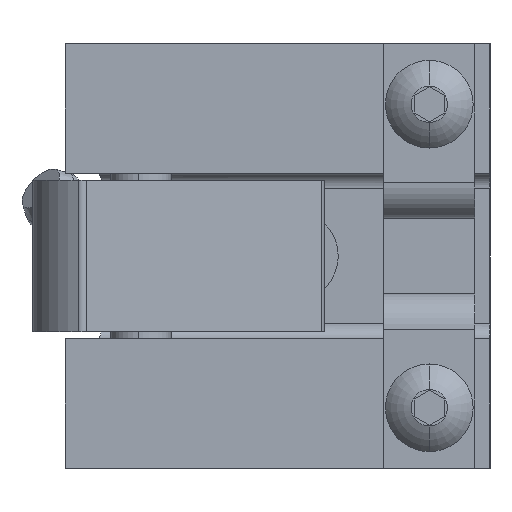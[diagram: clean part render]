
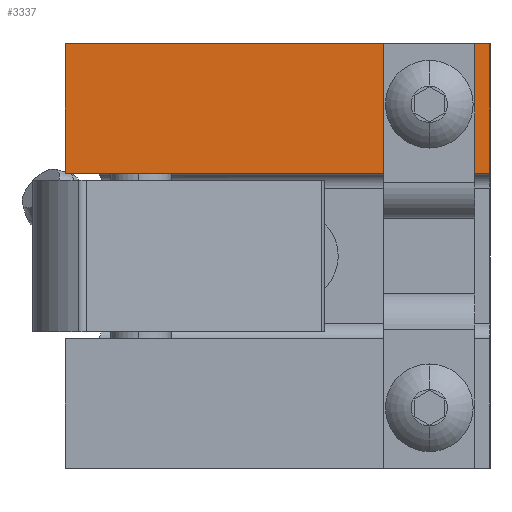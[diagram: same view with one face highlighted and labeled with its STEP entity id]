
A CAD part, left-side view. The second image highlights one B-rep face of the part: STEP entity #3337.
In plain terms, the highlighted planar face has unit normal (-1, 0, 0).
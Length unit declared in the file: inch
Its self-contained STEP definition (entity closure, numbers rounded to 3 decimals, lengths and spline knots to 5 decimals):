
#2589 = DIRECTION ( 'NONE',  ( 0., 0., 1. ) ) ;
#2590 = DIRECTION ( 'NONE',  ( -1., 0., 0. ) ) ;
#2591 = CARTESIAN_POINT ( 'NONE',  ( 0.81352, 2.0583, 4.45064 ) ) ;
#2592 = AXIS2_PLACEMENT_3D ( 'NONE', #2591, #2590, #2589 ) ;
#2593 = CIRCLE ( 'NONE', #2592, 0.0935 ) ;
#2594 = CARTESIAN_POINT ( 'NONE',  ( 0.81352, 2.0583, 4.54414 ) ) ;
#3086 = CARTESIAN_POINT ( 'NONE',  ( 0.81352, 2.0583, 4.35714 ) ) ;
#3335 = EDGE_CURVE ( 'NONE', #25564, #25682, #28764, .T. ) ;
#3336 = EDGE_LOOP ( 'NONE', ( #3338, #3343 ) ) ;
#3337 = ADVANCED_FACE ( 'NONE', ( #28583, #28582 ), #28722, .T. ) ;
#3338 = ORIENTED_EDGE ( 'NONE', *, *, #3335, .F. ) ;
#3343 = ORIENTED_EDGE ( 'NONE', *, *, #25563, .F. ) ;
#3344 = EDGE_LOOP ( 'NONE', ( #3345, #3437, #3440, #3377 ) ) ;
#3345 = ORIENTED_EDGE ( 'NONE', *, *, #3434, .F. ) ;
#3377 = ORIENTED_EDGE ( 'NONE', *, *, #3378, .F. ) ;
#3378 = EDGE_CURVE ( 'NONE', #3436, #3442, #28684, .T. ) ;
#3434 = EDGE_CURVE ( 'NONE', #3435, #3436, #28891, .T. ) ;
#3435 = VERTEX_POINT ( 'NONE', #28887 ) ;
#3436 = VERTEX_POINT ( 'NONE', #28886 ) ;
#3437 = ORIENTED_EDGE ( 'NONE', *, *, #3438, .T. ) ;
#3438 = EDGE_CURVE ( 'NONE', #3435, #3439, #28885, .T. ) ;
#3439 = VERTEX_POINT ( 'NONE', #28850 ) ;
#3440 = ORIENTED_EDGE ( 'NONE', *, *, #3441, .F. ) ;
#3441 = EDGE_CURVE ( 'NONE', #3442, #3439, #28849, .T. ) ;
#3442 = VERTEX_POINT ( 'NONE', #28845 ) ;
#25563 = EDGE_CURVE ( 'NONE', #25682, #25564, #2593, .T. ) ;
#25564 = VERTEX_POINT ( 'NONE', #2594 ) ;
#25682 = VERTEX_POINT ( 'NONE', #3086 ) ;
#28582 = FACE_OUTER_BOUND ( 'NONE', #3344, .T. ) ;
#28583 = FACE_BOUND ( 'NONE', #3336, .T. ) ;
#28584 = DIRECTION ( 'NONE',  ( 0., 0., 1. ) ) ;
#28585 = DIRECTION ( 'NONE',  ( -1., 0., 0. ) ) ;
#28586 = CARTESIAN_POINT ( 'NONE',  ( 0.81352, 2.0583, 4.45064 ) ) ;
#28587 = AXIS2_PLACEMENT_3D ( 'NONE', #28586, #28585, #28584 ) ;
#28681 = DIRECTION ( 'NONE',  ( 0., 0., 1. ) ) ;
#28682 = VECTOR ( 'NONE', #28681, 39.37008 ) ;
#28683 = CARTESIAN_POINT ( 'NONE',  ( 0.81352, 3.5583, 2.95064 ) ) ;
#28684 = LINE ( 'NONE', #28683, #28682 ) ;
#28718 = DIRECTION ( 'NONE',  ( 0., 0., 1. ) ) ;
#28719 = DIRECTION ( 'NONE',  ( -1., 0., 0. ) ) ;
#28720 = CARTESIAN_POINT ( 'NONE',  ( 0.81352, 1.8083, 2.95064 ) ) ;
#28721 = AXIS2_PLACEMENT_3D ( 'NONE', #28720, #28719, #28718 ) ;
#28722 = PLANE ( 'NONE',  #28721 ) ;
#28764 = CIRCLE ( 'NONE', #28587, 0.0935 ) ;
#28845 = CARTESIAN_POINT ( 'NONE',  ( 0.81352, 3.5583, 4.70064 ) ) ;
#28846 = DIRECTION ( 'NONE',  ( 0., -1., 0. ) ) ;
#28847 = VECTOR ( 'NONE', #28846, 39.37008 ) ;
#28848 = CARTESIAN_POINT ( 'NONE',  ( 0.81352, 1.8083, 4.70064 ) ) ;
#28849 = LINE ( 'NONE', #28848, #28847 ) ;
#28850 = CARTESIAN_POINT ( 'NONE',  ( 0.81352, 1.8083, 4.70064 ) ) ;
#28851 = DIRECTION ( 'NONE',  ( 0., 0., 1. ) ) ;
#28852 = VECTOR ( 'NONE', #28851, 39.37008 ) ;
#28853 = CARTESIAN_POINT ( 'NONE',  ( 0.81352, 1.8083, 2.95064 ) ) ;
#28885 = LINE ( 'NONE', #28853, #28852 ) ;
#28886 = CARTESIAN_POINT ( 'NONE',  ( 0.81352, 3.5583, 4.16564 ) ) ;
#28887 = CARTESIAN_POINT ( 'NONE',  ( 0.81352, 1.8083, 4.16564 ) ) ;
#28888 = DIRECTION ( 'NONE',  ( 0., 1., 0. ) ) ;
#28889 = VECTOR ( 'NONE', #28888, 39.37008 ) ;
#28890 = CARTESIAN_POINT ( 'NONE',  ( 0.81352, 1.8083, 4.16564 ) ) ;
#28891 = LINE ( 'NONE', #28890, #28889 ) ;
